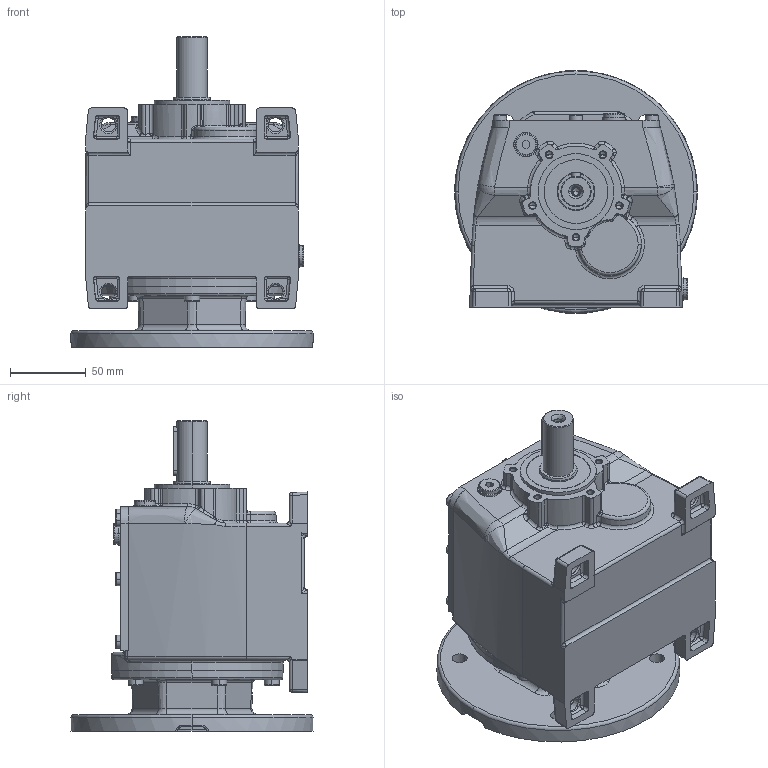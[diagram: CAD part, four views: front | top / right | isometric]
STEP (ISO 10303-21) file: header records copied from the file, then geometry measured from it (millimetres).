
FILE_DESCRIPTION (( 'STEP AP214' ), '1' );
FILE_NAME ('MTC22A-71-130.STEP', '2006-05-03T07:59:46', ( '' ), ( '' ), 'SwSTEP 2.0', 'SolidWorks 2004146', '' );
FILE_SCHEMA (( 'AUTOMOTIVE_DESIGN' ));
Length unit declared in the file: millimetre
Products named in the file (4): pøíruba d55 MRT60a_pøíruba 110-130-160; Skrin MTC2_A_MTC22_AP71; D6912_Šroub DIN 6912 - M6x20; MTC22A-71-130
Assembly tree (8 placements, depth 2):
  MTC22A-71-130
    D6912_Šroub DIN 6912 - M6x20  x6
    pøíruba d55 MRT60a_pøíruba 110-130-160
    Skrin MTC2_A_MTC22_AP71
Bounding box: 159.74 x 159.43 x 204.5 mm (x, y, z)
Volume: 1970707.9 mm3; surface area: 168380.4 mm2
Topology: 8 solids, 8 shells, 1424 faces, 3308 edges, 1918 vertices
Faces by surface type: plane 361, torus 347, cylinder 327, cone 209, bspline 154, sphere 26
Entity records: 125489 total; most frequent: CARTESIAN_POINT 94080, DIRECTION 6167, ORIENTED_EDGE 5860, EDGE_CURVE 2930, AXIS2_PLACEMENT_3D 2590, VERTEX_POINT 1760, CIRCLE 1494, EDGE_LOOP 1332
